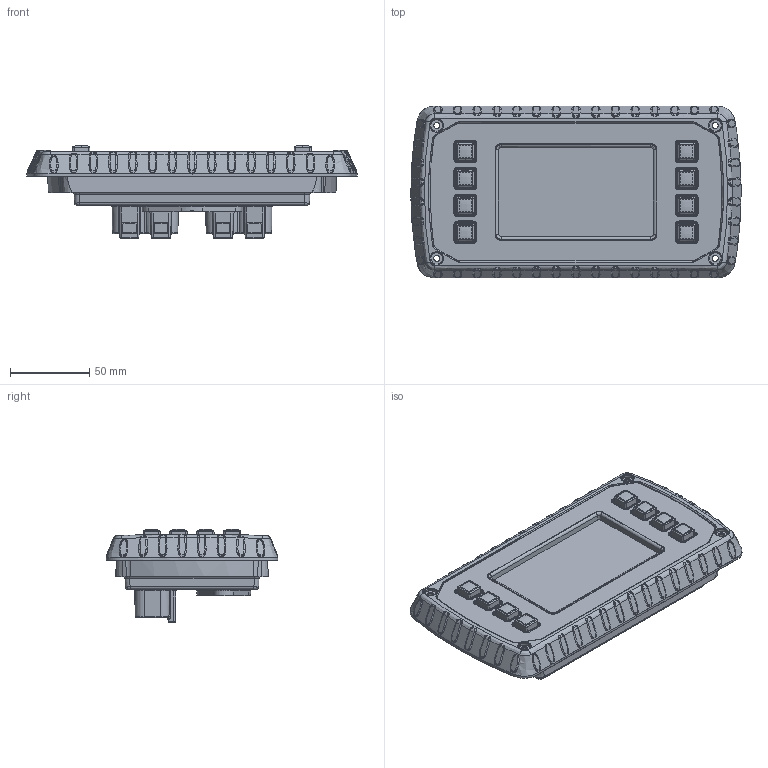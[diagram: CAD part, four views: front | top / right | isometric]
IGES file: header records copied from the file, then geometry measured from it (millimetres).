
Start section: SolidWorks IGES file using analytic representation for surfaces
Global section: file name: C:\Projects\Electronics\Murphy\UV450 ASSY.IGS; native system: SolidWorks 2010; preprocessor: SolidWorks 2010; author: JBeegle; date: 110801.100456; units: inch
Bounding box: 208.25 x 108.25 x 58.72 mm (x, y, z)
Surface area: 74084 mm2 (no closed solid volume)
Topology: 0 solids, 0 shells, 2161 faces, 18866 edges, 18859 vertices
Faces by surface type: bspline 1504, revolution 657
